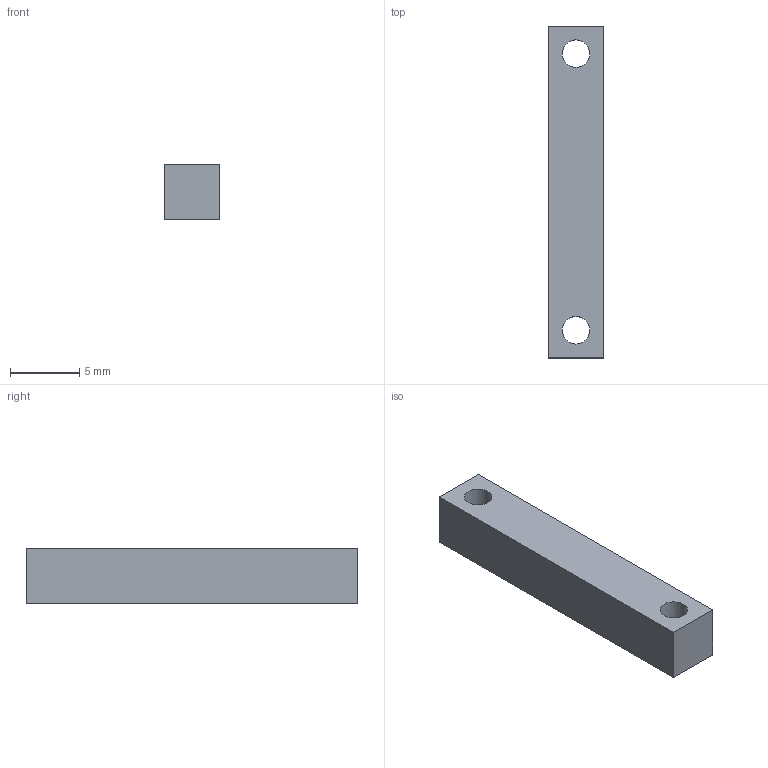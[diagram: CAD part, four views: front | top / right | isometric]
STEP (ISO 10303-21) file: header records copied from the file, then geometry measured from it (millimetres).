
FILE_DESCRIPTION (( 'STEP AP203' ), '1' );
FILE_NAME ('Bielle AV_Défaut_sldprt.STEP', '2025-03-05T11:19:49', ( '' ), ( '' ), 'SwSTEP 2.0', 'SolidWorks 2023', '' );
FILE_SCHEMA (( 'CONFIG_CONTROL_DESIGN' ));
Length unit declared in the file: millimetre
Products named in the file (1): Bielle AV_Défaut_sldprt
Bounding box: 4 x 24 x 4 mm (x, y, z)
Volume: 358.9 mm3; surface area: 453.7 mm2
Topology: 1 solids, 1 shells, 10 faces, 24 edges, 16 vertices
Faces by surface type: plane 6, cylinder 4
Entity records: 381 total; most frequent: DIRECTION 54, CARTESIAN_POINT 51, ORIENTED_EDGE 48, EDGE_CURVE 24, AXIS2_PLACEMENT_3D 19, VERTEX_POINT 16, LINE 16, VECTOR 16
